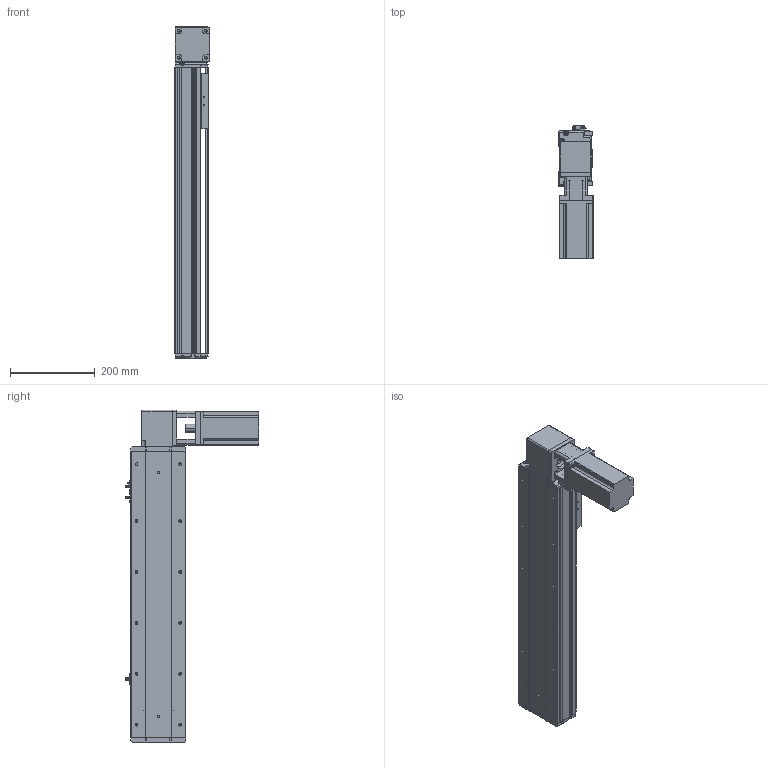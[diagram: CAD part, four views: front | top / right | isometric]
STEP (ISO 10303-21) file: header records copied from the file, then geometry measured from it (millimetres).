
FILE_DESCRIPTION (( 'STEP AP214' ), '1' );
FILE_NAME ('KSD130B-S450-MRT-CM.STEP', '2019-11-16T02:55:01', ( '微软用户' ), ( '微软中国' ), 'SwSTEP 2.0', 'SolidWorks 2014', '' );
FILE_SCHEMA (( 'AUTOMOTIVE_DESIGN' ));
Length unit declared in the file: millimetre
Products named in the file (12): 130宽盖板半封闭同步带-450行程; 130宽马达安装板同步带左-改; 130宽马达安装板同步带半封闭; 130宽同步带安装座半封闭; 130宽端盖同步带半封闭; 130宽底板半封闭同步带-450行程; KSD130B-S450-MRT-CM; 台达ECMA－C20807AS伺服电机; 130宽马达安装板1-带电机座750W（1）; 覜茼え100遵圉猾敕; U倰嫖萇EEㄜSX672; 130宽安装板同步带带电机座750W
Assembly tree (13 placements, depth 2):
  KSD130B-S450-MRT-CM
    130宽底板半封闭同步带-450行程
    130宽端盖同步带半封闭
    130宽同步带安装座半封闭
    130宽马达安装板同步带半封闭
    130宽马达安装板同步带左-改
    130宽盖板半封闭同步带-450行程
    130宽安装板同步带带电机座750W
    U倰嫖萇EEㄜSX672  x3
    覜茼え100遵圉猾敕
    130宽马达安装板1-带电机座750W（1）
    台达ECMA－C20807AS伺服电机
Bounding box: 81 x 316 x 783 mm (x, y, z)
Volume: 3479984.4 mm3; surface area: 857505.8 mm2
Topology: 14 solids, 14 shells, 1387 faces, 3892 edges, 2501 vertices
Faces by surface type: cylinder 653, plane 589, cone 145
Entity records: 44207 total; most frequent: CARTESIAN_POINT 7891, DIRECTION 6790, ORIENTED_EDGE 6492, EDGE_CURVE 3246, AXIS2_PLACEMENT_3D 2472, VERTEX_POINT 2125, VECTOR 1846, LINE 1846
